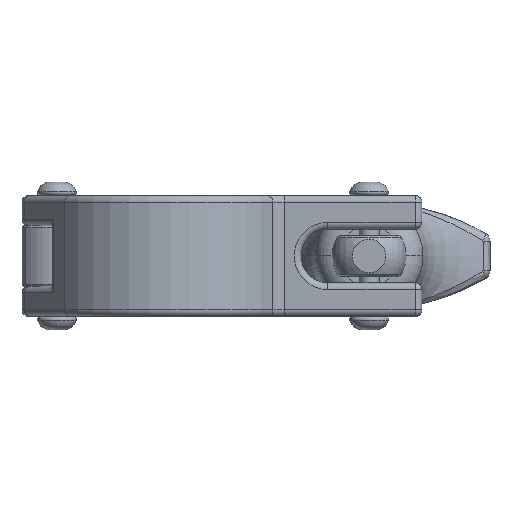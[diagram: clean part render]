
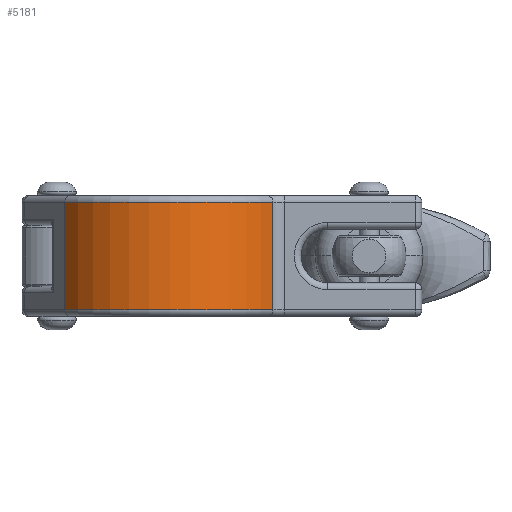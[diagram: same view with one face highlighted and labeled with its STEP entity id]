
A CAD part, front view. The second image highlights one B-rep face of the part: STEP entity #5181.
In plain terms, the highlighted cylindrical face has radius 18.4 mm (diameter 36.8 mm), a partial arc.
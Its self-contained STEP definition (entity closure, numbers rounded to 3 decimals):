
#786 = ORIENTED_EDGE ( 'NONE', *, *, #9182, .T. ) ;
#1152 = EDGE_CURVE ( 'NONE', #8456, #9725, #7080, .T. ) ;
#1184 = DIRECTION ( 'NONE',  ( 0., 0., 1. ) ) ;
#1237 = DIRECTION ( 'NONE',  ( -1., 0., 0. ) ) ;
#1938 = DIRECTION ( 'NONE',  ( -1., 0., 0. ) ) ;
#2553 = CARTESIAN_POINT ( 'NONE',  ( 15.666, 9.651, 8. ) ) ;
#2859 = EDGE_CURVE ( 'NONE', #12615, #9725, #9431, .T. ) ;
#2915 = CARTESIAN_POINT ( 'NONE',  ( -15.31, 10.207, -8. ) ) ;
#3263 = VECTOR ( 'NONE', #14049, 1000. ) ;
#3478 = CARTESIAN_POINT ( 'NONE',  ( 0., 0., -8. ) ) ;
#4341 = VECTOR ( 'NONE', #4364, 1000. ) ;
#4364 = DIRECTION ( 'NONE',  ( 0., 0., -1. ) ) ;
#4420 = AXIS2_PLACEMENT_3D ( 'NONE', #8094, #4925, #11427 ) ;
#4494 = LINE ( 'NONE', #11677, #3263 ) ;
#4925 = DIRECTION ( 'NONE',  ( 0., 0., -1. ) ) ;
#5124 = AXIS2_PLACEMENT_3D ( 'NONE', #7191, #12668, #1938 ) ;
#5181 = ADVANCED_FACE ( 'NONE', ( #5294 ), #7012, .T. ) ;
#5294 = FACE_OUTER_BOUND ( 'NONE', #10538, .T. ) ;
#5410 = CARTESIAN_POINT ( 'NONE',  ( -15.31, 10.207, 9. ) ) ;
#6971 = CARTESIAN_POINT ( 'NONE',  ( 15.666, 9.651, -8. ) ) ;
#7012 = CYLINDRICAL_SURFACE ( 'NONE', #5124, 18.4 ) ;
#7080 = LINE ( 'NONE', #5410, #4341 ) ;
#7152 = VERTEX_POINT ( 'NONE', #2553 ) ;
#7191 = CARTESIAN_POINT ( 'NONE',  ( 0., 0., 9. ) ) ;
#7380 = AXIS2_PLACEMENT_3D ( 'NONE', #3478, #1184, #1237 ) ;
#8094 = CARTESIAN_POINT ( 'NONE',  ( 0., 0., 8. ) ) ;
#8241 = ORIENTED_EDGE ( 'NONE', *, *, #13837, .T. ) ;
#8456 = VERTEX_POINT ( 'NONE', #13314 ) ;
#9182 = EDGE_CURVE ( 'NONE', #7152, #12615, #4494, .T. ) ;
#9431 = CIRCLE ( 'NONE', #7380, 18.4 ) ;
#9725 = VERTEX_POINT ( 'NONE', #2915 ) ;
#10538 = EDGE_LOOP ( 'NONE', ( #786, #12628, #12975, #8241 ) ) ;
#11190 = CIRCLE ( 'NONE', #4420, 18.4 ) ;
#11427 = DIRECTION ( 'NONE',  ( 1., 0., 0. ) ) ;
#11677 = CARTESIAN_POINT ( 'NONE',  ( 15.666, 9.651, 9. ) ) ;
#12615 = VERTEX_POINT ( 'NONE', #6971 ) ;
#12628 = ORIENTED_EDGE ( 'NONE', *, *, #2859, .T. ) ;
#12668 = DIRECTION ( 'NONE',  ( 0., 0., -1. ) ) ;
#12975 = ORIENTED_EDGE ( 'NONE', *, *, #1152, .F. ) ;
#13314 = CARTESIAN_POINT ( 'NONE',  ( -15.31, 10.207, 8. ) ) ;
#13837 = EDGE_CURVE ( 'NONE', #8456, #7152, #11190, .T. ) ;
#14049 = DIRECTION ( 'NONE',  ( 0., 0., -1. ) ) ;
